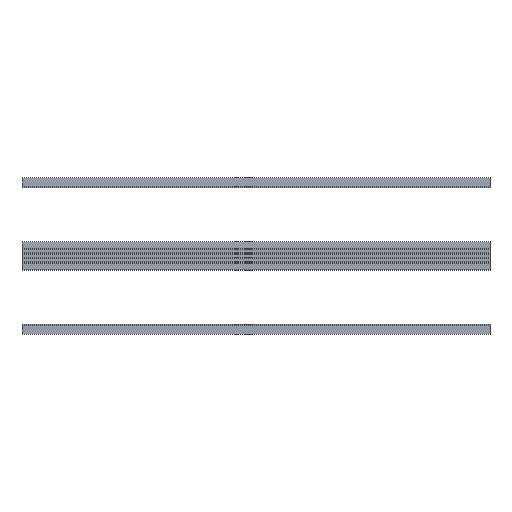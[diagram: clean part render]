
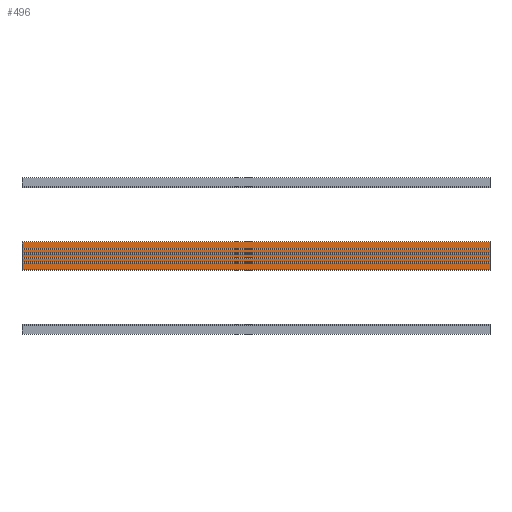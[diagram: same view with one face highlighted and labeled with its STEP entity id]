
A CAD part, top view. The second image highlights one B-rep face of the part: STEP entity #496.
In plain terms, the highlighted planar face has unit normal (0, 0, 1).
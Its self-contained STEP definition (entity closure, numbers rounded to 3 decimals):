
#182 = VERTEX_POINT('',#183);
#183 = CARTESIAN_POINT('',(2.25,-10.,50.));
#190 = PLANE('',#191);
#191 = AXIS2_PLACEMENT_3D('',#192,#193,#194);
#192 = CARTESIAN_POINT('',(2.25,-10.,49.));
#193 = DIRECTION('',(1.,0.,0.));
#194 = DIRECTION('',(0.,0.,1.));
#202 = PLANE('',#203);
#203 = AXIS2_PLACEMENT_3D('',#204,#205,#206);
#204 = CARTESIAN_POINT('',(2.25,-10.,49.));
#205 = DIRECTION('',(0.,1.,0.));
#206 = DIRECTION('',(0.,0.,1.));
#243 = VERTEX_POINT('',#244);
#244 = CARTESIAN_POINT('',(2.25,10.,50.));
#258 = PLANE('',#259);
#259 = AXIS2_PLACEMENT_3D('',#260,#261,#262);
#260 = CARTESIAN_POINT('',(2.25,10.,49.));
#261 = DIRECTION('',(0.,1.,0.));
#262 = DIRECTION('',(0.,0.,1.));
#270 = EDGE_CURVE('',#182,#243,#271,.T.);
#271 = SURFACE_CURVE('',#272,(#276,#283),.PCURVE_S1.);
#272 = LINE('',#273,#274);
#273 = CARTESIAN_POINT('',(2.25,-10.,50.));
#274 = VECTOR('',#275,1.);
#275 = DIRECTION('',(0.,1.,0.));
#276 = PCURVE('',#190,#277);
#277 = DEFINITIONAL_REPRESENTATION('',(#278),#282);
#278 = LINE('',#279,#280);
#279 = CARTESIAN_POINT('',(1.,0.));
#280 = VECTOR('',#281,1.);
#281 = DIRECTION('',(0.,-1.));
#282 = ( GEOMETRIC_REPRESENTATION_CONTEXT(2) 
PARAMETRIC_REPRESENTATION_CONTEXT() REPRESENTATION_CONTEXT('2D SPACE',''
  ) );
#283 = PCURVE('',#284,#289);
#284 = PLANE('',#285);
#285 = AXIS2_PLACEMENT_3D('',#286,#287,#288);
#286 = CARTESIAN_POINT('',(2.25,-10.,50.));
#287 = DIRECTION('',(0.,0.,1.));
#288 = DIRECTION('',(1.,0.,0.));
#289 = DEFINITIONAL_REPRESENTATION('',(#290),#294);
#290 = LINE('',#291,#292);
#291 = CARTESIAN_POINT('',(0.,0.));
#292 = VECTOR('',#293,1.);
#293 = DIRECTION('',(0.,1.));
#294 = ( GEOMETRIC_REPRESENTATION_CONTEXT(2) 
PARAMETRIC_REPRESENTATION_CONTEXT() REPRESENTATION_CONTEXT('2D SPACE',''
  ) );
#302 = VERTEX_POINT('',#303);
#303 = CARTESIAN_POINT('',(338.25,-10.,50.));
#310 = PLANE('',#311);
#311 = AXIS2_PLACEMENT_3D('',#312,#313,#314);
#312 = CARTESIAN_POINT('',(338.25,-10.,49.));
#313 = DIRECTION('',(1.,0.,0.));
#314 = DIRECTION('',(0.,0.,1.));
#353 = VERTEX_POINT('',#354);
#354 = CARTESIAN_POINT('',(338.25,10.,50.));
#375 = EDGE_CURVE('',#302,#353,#376,.T.);
#376 = SURFACE_CURVE('',#377,(#381,#388),.PCURVE_S1.);
#377 = LINE('',#378,#379);
#378 = CARTESIAN_POINT('',(338.25,-10.,50.));
#379 = VECTOR('',#380,1.);
#380 = DIRECTION('',(0.,1.,0.));
#381 = PCURVE('',#310,#382);
#382 = DEFINITIONAL_REPRESENTATION('',(#383),#387);
#383 = LINE('',#384,#385);
#384 = CARTESIAN_POINT('',(1.,0.));
#385 = VECTOR('',#386,1.);
#386 = DIRECTION('',(0.,-1.));
#387 = ( GEOMETRIC_REPRESENTATION_CONTEXT(2) 
PARAMETRIC_REPRESENTATION_CONTEXT() REPRESENTATION_CONTEXT('2D SPACE',''
  ) );
#388 = PCURVE('',#284,#389);
#389 = DEFINITIONAL_REPRESENTATION('',(#390),#394);
#390 = LINE('',#391,#392);
#391 = CARTESIAN_POINT('',(336.,0.));
#392 = VECTOR('',#393,1.);
#393 = DIRECTION('',(0.,1.));
#394 = ( GEOMETRIC_REPRESENTATION_CONTEXT(2) 
PARAMETRIC_REPRESENTATION_CONTEXT() REPRESENTATION_CONTEXT('2D SPACE',''
  ) );
#421 = EDGE_CURVE('',#182,#302,#422,.T.);
#422 = SURFACE_CURVE('',#423,(#427,#434),.PCURVE_S1.);
#423 = LINE('',#424,#425);
#424 = CARTESIAN_POINT('',(2.25,-10.,50.));
#425 = VECTOR('',#426,1.);
#426 = DIRECTION('',(1.,0.,0.));
#427 = PCURVE('',#202,#428);
#428 = DEFINITIONAL_REPRESENTATION('',(#429),#433);
#429 = LINE('',#430,#431);
#430 = CARTESIAN_POINT('',(1.,0.));
#431 = VECTOR('',#432,1.);
#432 = DIRECTION('',(0.,1.));
#433 = ( GEOMETRIC_REPRESENTATION_CONTEXT(2) 
PARAMETRIC_REPRESENTATION_CONTEXT() REPRESENTATION_CONTEXT('2D SPACE',''
  ) );
#434 = PCURVE('',#284,#435);
#435 = DEFINITIONAL_REPRESENTATION('',(#436),#440);
#436 = LINE('',#437,#438);
#437 = CARTESIAN_POINT('',(0.,0.));
#438 = VECTOR('',#439,1.);
#439 = DIRECTION('',(1.,0.));
#440 = ( GEOMETRIC_REPRESENTATION_CONTEXT(2) 
PARAMETRIC_REPRESENTATION_CONTEXT() REPRESENTATION_CONTEXT('2D SPACE',''
  ) );
#468 = EDGE_CURVE('',#243,#353,#469,.T.);
#469 = SURFACE_CURVE('',#470,(#474,#481),.PCURVE_S1.);
#470 = LINE('',#471,#472);
#471 = CARTESIAN_POINT('',(2.25,10.,50.));
#472 = VECTOR('',#473,1.);
#473 = DIRECTION('',(1.,0.,0.));
#474 = PCURVE('',#258,#475);
#475 = DEFINITIONAL_REPRESENTATION('',(#476),#480);
#476 = LINE('',#477,#478);
#477 = CARTESIAN_POINT('',(1.,0.));
#478 = VECTOR('',#479,1.);
#479 = DIRECTION('',(0.,1.));
#480 = ( GEOMETRIC_REPRESENTATION_CONTEXT(2) 
PARAMETRIC_REPRESENTATION_CONTEXT() REPRESENTATION_CONTEXT('2D SPACE',''
  ) );
#481 = PCURVE('',#284,#482);
#482 = DEFINITIONAL_REPRESENTATION('',(#483),#487);
#483 = LINE('',#484,#485);
#484 = CARTESIAN_POINT('',(0.,20.));
#485 = VECTOR('',#486,1.);
#486 = DIRECTION('',(1.,0.));
#487 = ( GEOMETRIC_REPRESENTATION_CONTEXT(2) 
PARAMETRIC_REPRESENTATION_CONTEXT() REPRESENTATION_CONTEXT('2D SPACE',''
  ) );
#496 = ADVANCED_FACE('',(#497),#284,.T.);
#497 = FACE_BOUND('',#498,.T.);
#498 = EDGE_LOOP('',(#499,#500,#501,#502));
#499 = ORIENTED_EDGE('',*,*,#270,.F.);
#500 = ORIENTED_EDGE('',*,*,#421,.T.);
#501 = ORIENTED_EDGE('',*,*,#375,.T.);
#502 = ORIENTED_EDGE('',*,*,#468,.F.);
